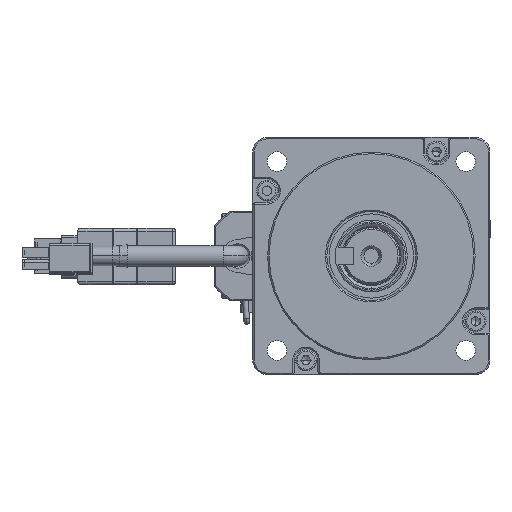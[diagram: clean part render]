
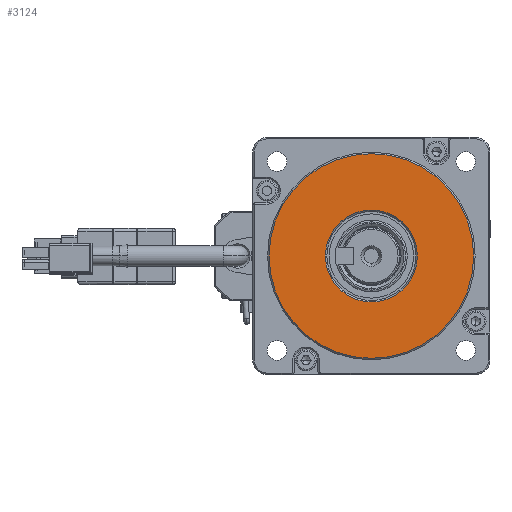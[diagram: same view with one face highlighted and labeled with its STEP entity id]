
A CAD part, left-side view. The second image highlights one B-rep face of the part: STEP entity #3124.
In plain terms, the highlighted planar face has unit normal (-1, 0, 0).
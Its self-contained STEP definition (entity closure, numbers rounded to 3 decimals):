
#2621 = CARTESIAN_POINT ( 'NONE',  ( 4.324, 2.652, 18.227 ) ) ;
#3124 = ADVANCED_FACE ( 'NONE', ( #7254, #16101 ), #27782, .T. ) ;
#4001 = DIRECTION ( 'NONE',  ( 1., 0., 0. ) ) ;
#4549 = CARTESIAN_POINT ( 'NONE',  ( 4.324, 2.652, 2.727 ) ) ;
#6969 = EDGE_CURVE ( 'NONE', #37138, #31530, #35379, .T. ) ;
#7254 = FACE_BOUND ( 'NONE', #16296, .T. ) ;
#7887 = DIRECTION ( 'NONE',  ( 0., 0., 1. ) ) ;
#11405 = AXIS2_PLACEMENT_3D ( 'NONE', #18658, #41870, #22032 ) ;
#16101 = FACE_OUTER_BOUND ( 'NONE', #35656, .T. ) ;
#16296 = EDGE_LOOP ( 'NONE', ( #39135, #31948 ) ) ;
#16428 = AXIS2_PLACEMENT_3D ( 'NONE', #4549, #27878, #7887 ) ;
#16940 = DIRECTION ( 'NONE',  ( -1., 0., 0. ) ) ;
#17039 = CARTESIAN_POINT ( 'NONE',  ( 4.324, 2.652, -31.773 ) ) ;
#17576 = CIRCLE ( 'NONE', #11405, 34.5 ) ;
#18204 = CIRCLE ( 'NONE', #23255, 15.5 ) ;
#18658 = CARTESIAN_POINT ( 'NONE',  ( 4.324, 2.652, 2.727 ) ) ;
#18664 = ORIENTED_EDGE ( 'NONE', *, *, #35232, .T. ) ;
#19001 = EDGE_CURVE ( 'NONE', #31530, #37138, #18204, .T. ) ;
#19325 = ORIENTED_EDGE ( 'NONE', *, *, #43039, .T. ) ;
#19952 = AXIS2_PLACEMENT_3D ( 'NONE', #33716, #27729, #27624 ) ;
#21695 = CARTESIAN_POINT ( 'NONE',  ( 4.324, 2.652, -12.773 ) ) ;
#22032 = DIRECTION ( 'NONE',  ( 0., 0., 1. ) ) ;
#23255 = AXIS2_PLACEMENT_3D ( 'NONE', #23965, #4001, #27327 ) ;
#23965 = CARTESIAN_POINT ( 'NONE',  ( 4.324, 2.652, 2.727 ) ) ;
#27327 = DIRECTION ( 'NONE',  ( 0., 0., 1. ) ) ;
#27624 = DIRECTION ( 'NONE',  ( 0., 0., 1. ) ) ;
#27729 = DIRECTION ( 'NONE',  ( -1., 0., 0. ) ) ;
#27782 = PLANE ( 'NONE',  #19952 ) ;
#27878 = DIRECTION ( 'NONE',  ( 1., 0., 0. ) ) ;
#28461 = AXIS2_PLACEMENT_3D ( 'NONE', #36889, #16940, #40167 ) ;
#29033 = CIRCLE ( 'NONE', #28461, 34.5 ) ;
#31530 = VERTEX_POINT ( 'NONE', #2621 ) ;
#31706 = VERTEX_POINT ( 'NONE', #17039 ) ;
#31948 = ORIENTED_EDGE ( 'NONE', *, *, #6969, .T. ) ;
#33716 = CARTESIAN_POINT ( 'NONE',  ( 4.324, 2.652, 2.727 ) ) ;
#34237 = VERTEX_POINT ( 'NONE', #38827 ) ;
#35232 = EDGE_CURVE ( 'NONE', #31706, #34237, #17576, .T. ) ;
#35379 = CIRCLE ( 'NONE', #16428, 15.5 ) ;
#35656 = EDGE_LOOP ( 'NONE', ( #18664, #19325 ) ) ;
#36889 = CARTESIAN_POINT ( 'NONE',  ( 4.324, 2.652, 2.727 ) ) ;
#37138 = VERTEX_POINT ( 'NONE', #21695 ) ;
#38827 = CARTESIAN_POINT ( 'NONE',  ( 4.324, 2.652, 37.227 ) ) ;
#39135 = ORIENTED_EDGE ( 'NONE', *, *, #19001, .T. ) ;
#40167 = DIRECTION ( 'NONE',  ( 0., 0., 1. ) ) ;
#41870 = DIRECTION ( 'NONE',  ( -1., 0., 0. ) ) ;
#43039 = EDGE_CURVE ( 'NONE', #34237, #31706, #29033, .T. ) ;
